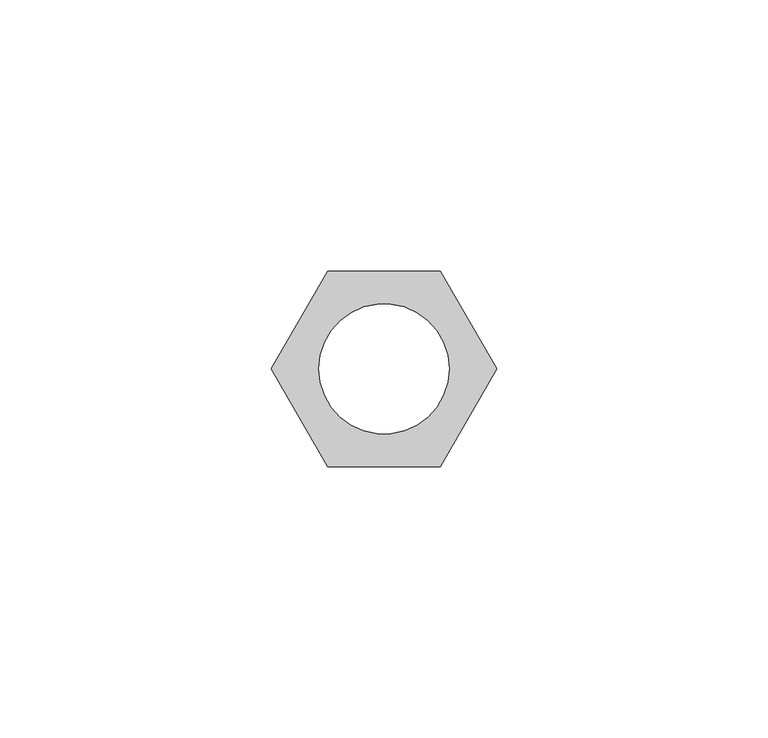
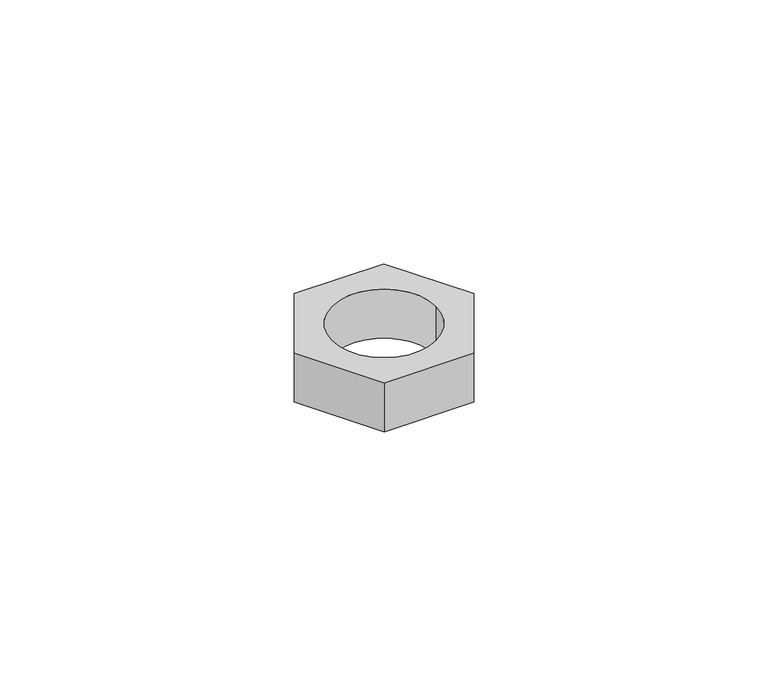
"""IFC4 building model written with IfcOpenShell, lengths in millimetres: fastener geometry, REC_TCA_M24 : REC_TCA_M24."""

from ifc_helpers import new_model, si_unit, point, origin, origin_with_axes, origin_2d, place, context, project, spatial, polyline, circle_curve, trimmed, segment, composite_curve, outline, extrude, source, transform, mapped, element, save


def fastener_fd3466ae(model_context):
    return source(origin(), model_context, "Body", "SweptSolid", [
        extrude(outline(polyline([(10.3923048, 18.0), (20.7846097, 0.0), (10.3923048, -18.0), (-10.3923048, -18.0), (-20.7846097, 0.0), (-10.3923048, 18.0), (10.3923048, 18.0)]), holes=[composite_curve([segment(trimmed(circle_curve(origin_2d(), 12.0), [point((-12.0, 0.0))], [point((12.0, 0.0))], True, "CARTESIAN"), True, "CONTINUOUS"), segment(trimmed(circle_curve(origin_2d(), 12.0), [point((12.0, 0.0))], [point((-12.0, 0.0))], True, "CARTESIAN"), True, "CONTINUOUS")], self_intersect=False)]), origin_with_axes(), (0.0, 0.0, 1.0), 12.0),
    ])


if __name__ == "__main__":
    model = new_model("IFC4")
    model_context = context("Model", 3, world=origin())
    ifc_project = project(units=[si_unit("LENGTHUNIT", "METRE", prefix="MILLI")], contexts=[model_context])
    site = spatial("IfcSite", under=ifc_project)
    building = spatial("IfcBuilding", under=site)
    placement = place(None, origin())
    fastener_shape = fastener_fd3466ae(model_context)
    element("IfcFastener", 1, ObjectType="REC_TCA_M24 : REC_TCA_M24", at=placement, inside=building, context=model_context, shape_type="MappedRepresentation", body=[
        mapped(fastener_shape, transform((0.0, 0.0, 0.0), x_axis=(1.0, 0.0, 0.0), y_axis=(0.0, 1.0, 0.0), z_axis=(0.0, 0.0, 1.0))),
    ])
    save(model, "model.ifc")
